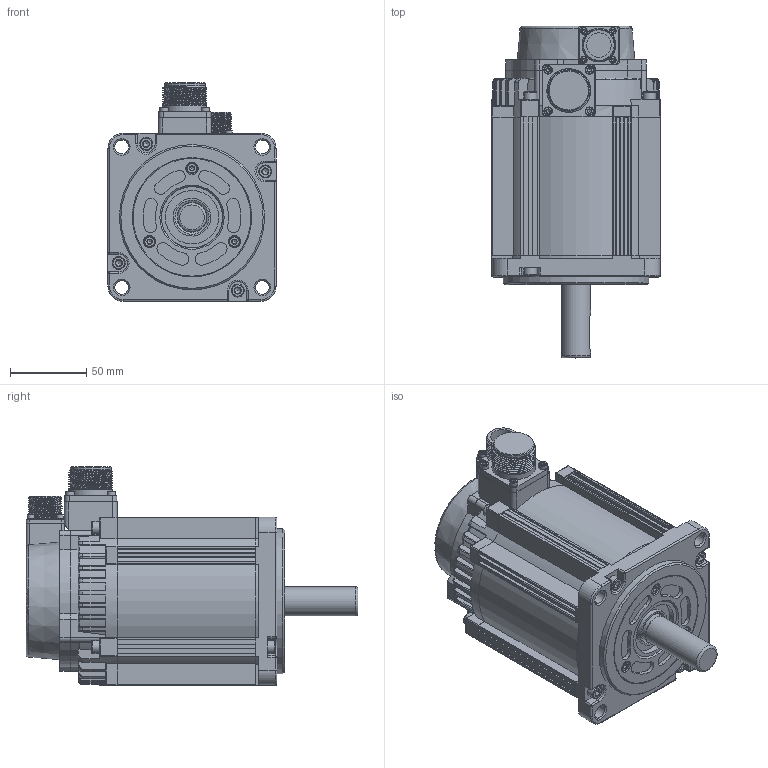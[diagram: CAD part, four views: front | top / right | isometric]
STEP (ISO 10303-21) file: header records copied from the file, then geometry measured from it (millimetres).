
FILE_DESCRIPTION(/* description */ (''),/* implementation_level */ '2;1');
FILE_NAME(/* name */ '110SY-M04030S1.stp',/* time_stamp */ '2023-12-28T16:37:30+08:00',/* author */ (''),/* organization */ (''),/* preprocessor_version */ 'ST-DEVELOPER v18.1',/* originating_system */ 'SIEMENS PLM Software NX 2000',/* authorisation */ '');
FILE_SCHEMA (('AUTOMOTIVE_DESIGN { 1 0 10303 214 3 1 1 1 }'));
Length unit declared in the file: millimetre
Products named in the file (1): 110S1电机外形图(02030) 
Bounding box: 110 x 217 x 143 mm (x, y, z)
Volume: 1556388.7 mm3; surface area: 212587.3 mm2
Topology: 28 solids, 28 shells, 1331 faces, 3149 edges, 1897 vertices
Faces by surface type: plane 598, cylinder 366, cone 210, torus 98, bspline 41, sphere 18
Full cylindrical faces by diameter (mm): 1 x4, 2.3 x4, 2.38 x4, 2.5 x6, 2.874 x4, 3 x4, 3.3 x3, 3.838 x3, 4.2 x4, 4.5 x7, 4.826 x8, 5.5 x12, 7 x3, 8 x3, 8.5 x8, 9 x4, 16 x1, 19 x1, 19.6 x1, 20 x1, 22.288 x1, 24.616 x1, 25 x1, 26 x1, 26.6 x1, 28.5 x8, 35 x1, 40 x2, 77 x2, 95 x1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
Entity records: 43083 total; most frequent: CARTESIAN_POINT 13811, DIRECTION 6138, ORIENTED_EDGE 5690, EDGE_CURVE 2845, AXIS2_PLACEMENT_3D 2408, VERTEX_POINT 1850, EDGE_LOOP 1619, ADVANCED_FACE 1322
